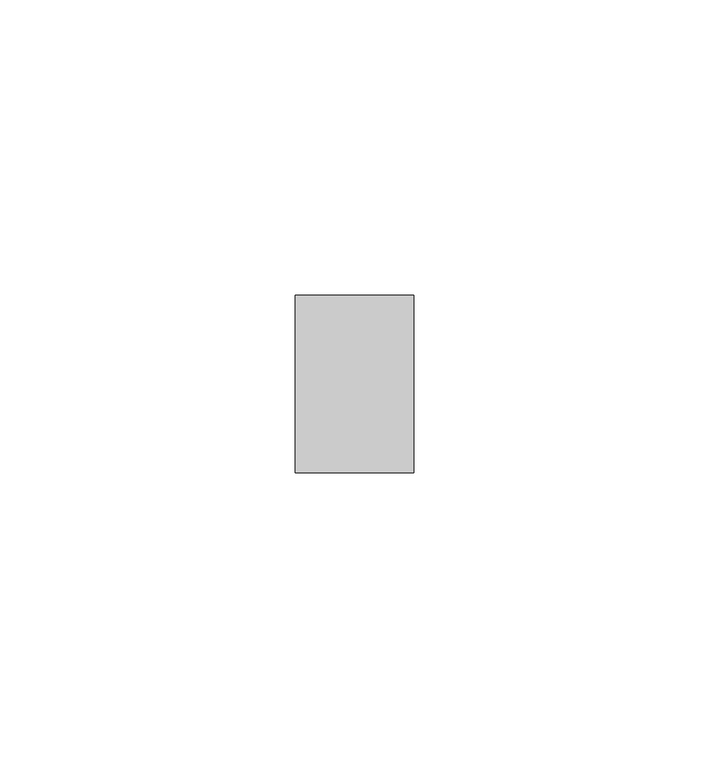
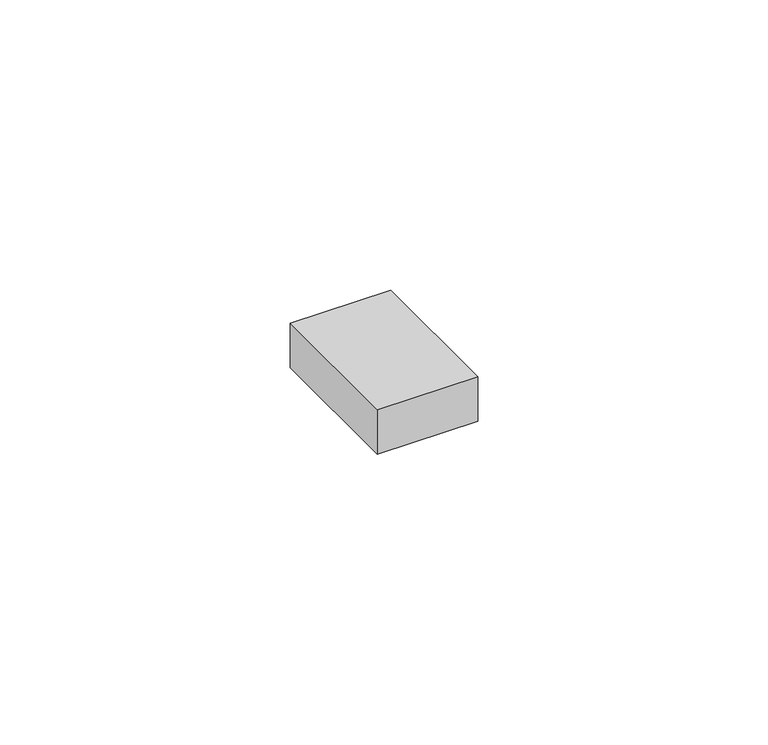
"""IFC4 building model written with IfcOpenShell, lengths in millimetres: member geometry, Прямоугольный импост : Квадрат 10 мм - Зазор между навесными плитами."""

from ifc_helpers import new_model, si_unit, frame, origin, place, context, project, spatial, polyline, outline, extrude, source, transform, mapped, element, save


def member_25bc8976(model_context):
    return source(origin(), model_context, "Body", "SweptSolid", [
        extrude(outline(polyline([(0.0, 15.0), (0.0, -15.0), (-20.0, -15.0), (-20.0, 15.0), (0.0, 15.0)])), frame((0.0, 0.0, -9.359527), z_axis=(0.0, 0.0, 1.0), x_axis=(1.0, 0.0, 0.0)), (0.0, 0.0, 1.0), 9.359527),
    ])


if __name__ == "__main__":
    model = new_model("IFC4")
    model_context = context("Model", 3, world=origin())
    ifc_project = project(units=[si_unit("LENGTHUNIT", "METRE", prefix="MILLI")], contexts=[model_context])
    site = spatial("IfcSite", under=ifc_project)
    building = spatial("IfcBuilding", under=site)
    placement = place(None, origin())
    member_shape = member_25bc8976(model_context)
    element("IfcMember", 1, ObjectType="Прямоугольный импост : Квадрат 10 мм - Зазор между навесными плитами", at=placement, inside=building, context=model_context, shape_type="MappedRepresentation", body=[
        mapped(member_shape, transform((0.0, 0.0, 0.0), x_axis=(1.0, 0.0, 0.0), y_axis=(0.0, 1.0, 0.0), z_axis=(0.0, 0.0, 1.0))),
    ])
    save(model, "model.ifc")
